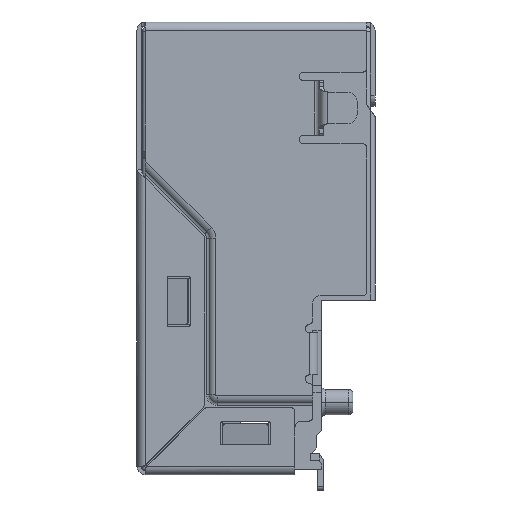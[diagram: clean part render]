
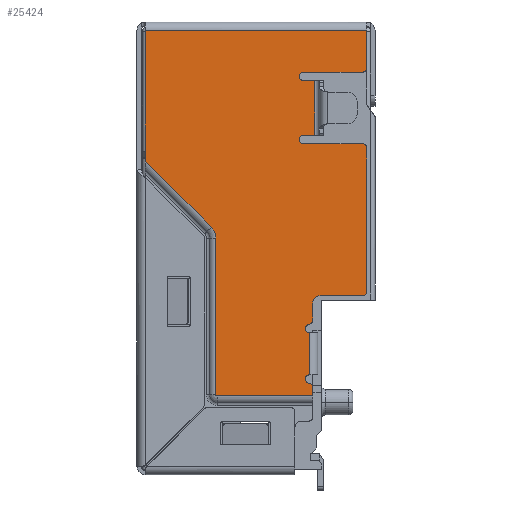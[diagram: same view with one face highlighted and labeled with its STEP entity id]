
A CAD part, left-side view. The second image highlights one B-rep face of the part: STEP entity #25424.
In plain terms, the highlighted planar face has unit normal (-1, 0, 0).
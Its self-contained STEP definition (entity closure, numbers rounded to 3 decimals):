
#1782=DIRECTION('',(0.,0.,-1.));
#1783=VECTOR('',#1782,1.78);
#1784=CARTESIAN_POINT('',(-7.75,0.4,-0.15));
#1785=LINE('',#1784,#1783);
#1786=CARTESIAN_POINT('',(-7.75,0.6,-1.93));
#1787=DIRECTION('',(1.,0.,0.));
#1788=DIRECTION('',(0.,-1.,0.));
#1789=AXIS2_PLACEMENT_3D('',#1786,#1787,#1788);
#1791=CARTESIAN_POINT('',(-7.75,3.4,-2.33));
#1792=DIRECTION('',(-1.,0.,0.));
#1793=DIRECTION('',(0.,0.,1.));
#1794=AXIS2_PLACEMENT_3D('',#1791,#1792,#1793);
#1796=DIRECTION('',(0.,1.,0.));
#1797=VECTOR('',#1796,0.55);
#1798=CARTESIAN_POINT('',(-7.75,2.85,-5.13));
#1799=LINE('',#1798,#1797);
#1800=CARTESIAN_POINT('',(-7.75,3.4,-5.33));
#1801=DIRECTION('',(-1.,0.,0.));
#1802=DIRECTION('',(0.,0.,1.));
#1803=AXIS2_PLACEMENT_3D('',#1800,#1801,#1802);
#1805=DIRECTION('',(0.,-1.,0.));
#1806=VECTOR('',#1805,2.8);
#1807=CARTESIAN_POINT('',(-7.75,3.4,-5.53));
#1808=LINE('',#1807,#1806);
#1809=CARTESIAN_POINT('',(-7.75,0.6,-5.73));
#1810=DIRECTION('',(1.,0.,0.));
#1811=DIRECTION('',(0.,0.,1.));
#1812=AXIS2_PLACEMENT_3D('',#1809,#1810,#1811);
#1814=DIRECTION('',(0.,0.,-1.));
#1815=VECTOR('',#1814,6.82);
#1816=CARTESIAN_POINT('',(-7.75,0.4,-5.73));
#1817=LINE('',#1816,#1815);
#1818=CARTESIAN_POINT('',(-7.75,0.6,-12.55));
#1819=DIRECTION('',(1.,0.,0.));
#1820=DIRECTION('',(0.,-1.,0.));
#1821=AXIS2_PLACEMENT_3D('',#1818,#1819,#1820);
#1823=DIRECTION('',(0.,1.,0.));
#1824=VECTOR('',#1823,2.01);
#1825=CARTESIAN_POINT('',(-7.75,0.6,-12.75));
#1826=LINE('',#1825,#1824);
#1827=CARTESIAN_POINT('',(-7.75,2.61,-13.1));
#1828=DIRECTION('',(-1.,0.,0.));
#1829=DIRECTION('',(0.,0.,1.));
#1830=AXIS2_PLACEMENT_3D('',#1827,#1828,#1829);
#1832=DIRECTION('',(0.,0.,-1.));
#1833=VECTOR('',#1832,0.807);
#1834=CARTESIAN_POINT('',(-7.75,2.96,-13.1));
#1835=LINE('',#1834,#1833);
#1836=CARTESIAN_POINT('',(-7.75,3.16,-13.907));
#1837=DIRECTION('',(1.,0.,0.));
#1838=DIRECTION('',(0.,-1.,0.));
#1839=AXIS2_PLACEMENT_3D('',#1836,#1837,#1838);
#1841=CARTESIAN_POINT('',(-7.75,3.11,-14.304));
#1842=DIRECTION('',(-1.,0.,0.));
#1843=DIRECTION('',(0.,0.125,0.992));
#1844=AXIS2_PLACEMENT_3D('',#1841,#1842,#1843);
#1846=CARTESIAN_POINT('',(-7.75,3.11,-16.704));
#1847=DIRECTION('',(-1.,0.,0.));
#1848=DIRECTION('',(0.,0.,1.));
#1849=AXIS2_PLACEMENT_3D('',#1846,#1847,#1848);
#1851=CARTESIAN_POINT('',(-7.75,3.16,-17.1));
#1852=DIRECTION('',(1.,0.,0.));
#1853=DIRECTION('',(0.,-0.125,0.992));
#1854=AXIS2_PLACEMENT_3D('',#1851,#1852,#1853);
#1856=CARTESIAN_POINT('',(-7.75,7.5,-17.45));
#1857=DIRECTION('',(1.,0.,0.));
#1858=DIRECTION('',(0.,0.,-1.));
#1859=AXIS2_PLACEMENT_3D('',#1856,#1857,#1858);
#1861=CARTESIAN_POINT('',(-7.75,8.3,-10.016));
#1862=DIRECTION('',(-1.,0.,0.));
#1863=DIRECTION('',(0.,-1.,0.));
#1864=AXIS2_PLACEMENT_3D('',#1861,#1862,#1863);
#1866=DIRECTION('',(0.,0.707,0.707));
#1867=VECTOR('',#1866,4.423);
#1868=CARTESIAN_POINT('',(-7.75,7.772,-9.488));
#1869=LINE('',#1868,#1867);
#1870=DIRECTION('',(0.,0.,1.));
#1871=VECTOR('',#1870,6.21);
#1872=CARTESIAN_POINT('',(-7.75,10.9,
-6.36));
#1873=LINE('',#1872,#1871);
#2218=DIRECTION('',(0.,1.,0.));
#2219=VECTOR('',#2218,0.55);
#2220=CARTESIAN_POINT('',(-7.75,2.85,-2.53));
#2221=LINE('',#2220,#2219);
#2244=DIRECTION('',(0.,-1.,0.));
#2245=VECTOR('',#2244,2.8);
#2246=CARTESIAN_POINT('',(-7.75,3.4,-2.13));
#2247=LINE('',#2246,#2245);
#2290=DIRECTION('',(0.,0.,1.));
#2291=VECTOR('',#2290,2.6);
#2292=CARTESIAN_POINT('',(-7.75,2.85,-5.13));
#2293=LINE('',#2292,#2291);
#2611=DIRECTION('',(0.,0.,1.));
#2612=VECTOR('',#2611,0.403);
#2613=CARTESIAN_POINT('',(-7.75,2.96,-17.504));
#2614=LINE('',#2613,#2612);
#7203=DIRECTION('',(0.,1.,0.));
#7204=VECTOR('',#7203,10.5);
#7205=CARTESIAN_POINT('',(-7.75,0.4,-0.15));
#7206=LINE('',#7205,#7204);
#15564=DIRECTION('',(0.,0.,-1.));
#15565=VECTOR('',#15564,7.434);
#15566=CARTESIAN_POINT('',(-7.75,7.554,-10.016));
#15567=LINE('',#15566,#15565);
#15583=DIRECTION('',(0.,-1.,0.));
#15584=VECTOR('',#15583,4.54);
#15585=CARTESIAN_POINT('',(-7.75,7.5,-17.504));
#15586=LINE('',#15585,#15584);
#15591=DIRECTION('',(0.,0.,1.));
#15592=VECTOR('',#15591,2.);
#15593=CARTESIAN_POINT('',(-7.75,3.11,-16.504));
#15594=LINE('',#15593,#15592);
#18805=CARTESIAN_POINT('',(-7.75,7.772,-9.488));
#18806=CARTESIAN_POINT('',(-7.75,10.9,
-6.36));
#18807=VERTEX_POINT('',#18805);
#18808=VERTEX_POINT('',#18806);
#18809=CARTESIAN_POINT('',(-7.75,0.4,-0.15));
#18810=CARTESIAN_POINT('',(-7.75,0.4,-1.93));
#18811=VERTEX_POINT('',#18809);
#18812=VERTEX_POINT('',#18810);
#18813=CARTESIAN_POINT('',(-7.75,0.6,-2.13));
#18814=VERTEX_POINT('',#18813);
#18815=CARTESIAN_POINT('',(-7.75,3.4,-2.13));
#18816=VERTEX_POINT('',#18815);
#18817=CARTESIAN_POINT('',(-7.75,3.4,-2.53));
#18818=VERTEX_POINT('',#18817);
#18819=CARTESIAN_POINT('',(-7.75,2.85,-2.53));
#18820=VERTEX_POINT('',#18819);
#18821=CARTESIAN_POINT('',(-7.75,2.85,-5.13));
#18822=VERTEX_POINT('',#18821);
#18823=CARTESIAN_POINT('',(-7.75,3.4,-5.13));
#18824=VERTEX_POINT('',#18823);
#18825=CARTESIAN_POINT('',(-7.75,3.4,-5.53));
#18826=VERTEX_POINT('',#18825);
#18827=CARTESIAN_POINT('',(-7.75,0.6,-5.53));
#18828=VERTEX_POINT('',#18827);
#18829=CARTESIAN_POINT('',(-7.75,0.4,-5.73));
#18830=VERTEX_POINT('',#18829);
#18831=CARTESIAN_POINT('',(-7.75,0.4,-12.55));
#18832=VERTEX_POINT('',#18831);
#18833=CARTESIAN_POINT('',(-7.75,0.6,-12.75));
#18834=VERTEX_POINT('',#18833);
#18835=CARTESIAN_POINT('',(-7.75,2.61,-12.75));
#18836=VERTEX_POINT('',#18835);
#18837=CARTESIAN_POINT('',(-7.75,2.96,-13.1));
#18838=VERTEX_POINT('',#18837);
#18839=CARTESIAN_POINT('',(-7.75,2.96,-13.907));
#18840=VERTEX_POINT('',#18839);
#18841=CARTESIAN_POINT('',(-7.75,3.135,-14.105));
#18842=VERTEX_POINT('',#18841);
#18843=CARTESIAN_POINT('',(-7.75,3.11,-14.504));
#18844=VERTEX_POINT('',#18843);
#18845=CARTESIAN_POINT('',(-7.75,3.11,-16.504));
#18846=VERTEX_POINT('',#18845);
#18847=CARTESIAN_POINT('',(-7.75,3.135,-16.902));
#18848=VERTEX_POINT('',#18847);
#18849=CARTESIAN_POINT('',(-7.75,2.96,-17.1));
#18850=VERTEX_POINT('',#18849);
#18851=CARTESIAN_POINT('',(-7.75,2.96,-17.504));
#18852=VERTEX_POINT('',#18851);
#18853=CARTESIAN_POINT('',(-7.75,7.5,-17.504));
#18854=VERTEX_POINT('',#18853);
#18855=CARTESIAN_POINT('',(-7.75,7.554,
-17.45));
#18856=VERTEX_POINT('',#18855);
#18857=CARTESIAN_POINT('',(-7.75,7.554,-10.016));
#18858=VERTEX_POINT('',#18857);
#18859=CARTESIAN_POINT('',(-7.75,10.9,-0.15));
#18860=VERTEX_POINT('',#18859);
#25362=CARTESIAN_POINT('',(-7.75,5.65,-8.827));
#25363=DIRECTION('',(1.,0.,0.));
#25364=DIRECTION('',(0.,1.,0.));
#25365=AXIS2_PLACEMENT_3D('',#25362,#25363,#25364);
#25366=PLANE('',#25365);
#25368=ORIENTED_EDGE('',*,*,#25367,.T.);
#25370=ORIENTED_EDGE('',*,*,#25369,.T.);
#25372=ORIENTED_EDGE('',*,*,#25371,.F.);
#25374=ORIENTED_EDGE('',*,*,#25373,.T.);
#25376=ORIENTED_EDGE('',*,*,#25375,.F.);
#25378=ORIENTED_EDGE('',*,*,#25377,.F.);
#25380=ORIENTED_EDGE('',*,*,#25379,.T.);
#25382=ORIENTED_EDGE('',*,*,#25381,.T.);
#25384=ORIENTED_EDGE('',*,*,#25383,.T.);
#25386=ORIENTED_EDGE('',*,*,#25385,.T.);
#25388=ORIENTED_EDGE('',*,*,#25387,.T.);
#25390=ORIENTED_EDGE('',*,*,#25389,.T.);
#25392=ORIENTED_EDGE('',*,*,#25391,.T.);
#25394=ORIENTED_EDGE('',*,*,#25393,.T.);
#25396=ORIENTED_EDGE('',*,*,#25395,.T.);
#25398=ORIENTED_EDGE('',*,*,#25397,.T.);
#25400=ORIENTED_EDGE('',*,*,#25399,.T.);
#25402=ORIENTED_EDGE('',*,*,#25401,.F.);
#25404=ORIENTED_EDGE('',*,*,#25403,.T.);
#25406=ORIENTED_EDGE('',*,*,#25405,.T.);
#25408=ORIENTED_EDGE('',*,*,#25407,.F.);
#25410=ORIENTED_EDGE('',*,*,#25409,.F.);
#25412=ORIENTED_EDGE('',*,*,#25411,.T.);
#25414=ORIENTED_EDGE('',*,*,#25413,.F.);
#25416=ORIENTED_EDGE('',*,*,#25415,.T.);
#25417=ORIENTED_EDGE('',*,*,#25352,.T.);
#25419=ORIENTED_EDGE('',*,*,#25418,.T.);
#25421=ORIENTED_EDGE('',*,*,#25420,.F.);
#25422=EDGE_LOOP('',(#25368,#25370,#25372,#25374,#25376,#25378,#25380,#25382,
#25384,#25386,#25388,#25390,#25392,#25394,#25396,#25398,#25400,#25402,#25404,
#25406,#25408,#25410,#25412,#25414,#25416,#25417,#25419,#25421));
#25423=FACE_OUTER_BOUND('',#25422,.F.);
#25424=ADVANCED_FACE('',(#25423),#25366,.F.);
#1790=CIRCLE('',#1789,0.2);
#1795=CIRCLE('',#1794,0.2);
#1804=CIRCLE('',#1803,0.2);
#1813=CIRCLE('',#1812,0.2);
#1822=CIRCLE('',#1821,0.2);
#1831=CIRCLE('',#1830,0.35);
#1840=CIRCLE('',#1839,0.2);
#1845=CIRCLE('',#1844,0.2);
#1850=CIRCLE('',#1849,0.2);
#1855=CIRCLE('',#1854,0.2);
#1860=CIRCLE('',#1859,0.054);
#1865=CIRCLE('',#1864,0.746);
#25352=EDGE_CURVE('',#18807,#18808,#1869,.T.);
#25367=EDGE_CURVE('',#18811,#18812,#1785,.T.);
#25369=EDGE_CURVE('',#18812,#18814,#1790,.T.);
#25371=EDGE_CURVE('',#18816,#18814,#2247,.T.);
#25373=EDGE_CURVE('',#18816,#18818,#1795,.T.);
#25375=EDGE_CURVE('',#18820,#18818,#2221,.T.);
#25377=EDGE_CURVE('',#18822,#18820,#2293,.T.);
#25379=EDGE_CURVE('',#18822,#18824,#1799,.T.);
#25381=EDGE_CURVE('',#18824,#18826,#1804,.T.);
#25383=EDGE_CURVE('',#18826,#18828,#1808,.T.);
#25385=EDGE_CURVE('',#18828,#18830,#1813,.T.);
#25387=EDGE_CURVE('',#18830,#18832,#1817,.T.);
#25389=EDGE_CURVE('',#18832,#18834,#1822,.T.);
#25391=EDGE_CURVE('',#18834,#18836,#1826,.T.);
#25393=EDGE_CURVE('',#18836,#18838,#1831,.T.);
#25395=EDGE_CURVE('',#18838,#18840,#1835,.T.);
#25397=EDGE_CURVE('',#18840,#18842,#1840,.T.);
#25399=EDGE_CURVE('',#18842,#18844,#1845,.T.);
#25401=EDGE_CURVE('',#18846,#18844,#15594,.T.);
#25403=EDGE_CURVE('',#18846,#18848,#1850,.T.);
#25405=EDGE_CURVE('',#18848,#18850,#1855,.T.);
#25407=EDGE_CURVE('',#18852,#18850,#2614,.T.);
#25409=EDGE_CURVE('',#18854,#18852,#15586,.T.);
#25411=EDGE_CURVE('',#18854,#18856,#1860,.T.);
#25413=EDGE_CURVE('',#18858,#18856,#15567,.T.);
#25415=EDGE_CURVE('',#18858,#18807,#1865,.T.);
#25418=EDGE_CURVE('',#18808,#18860,#1873,.T.);
#25420=EDGE_CURVE('',#18811,#18860,#7206,.T.);
